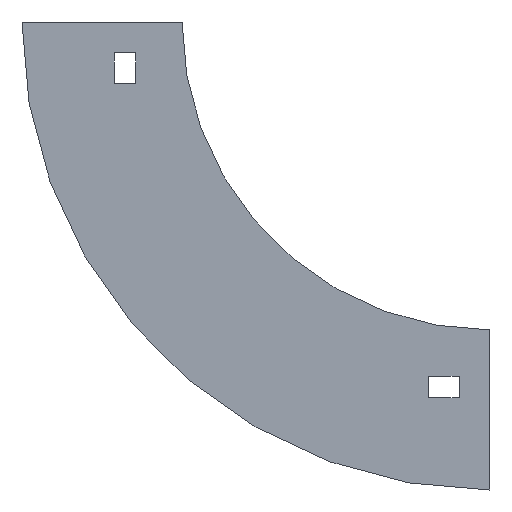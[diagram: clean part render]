
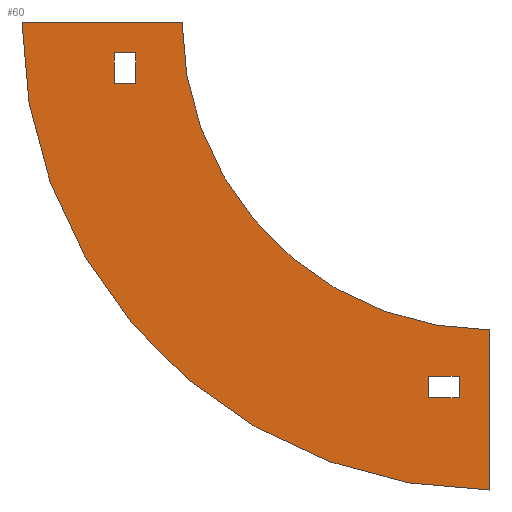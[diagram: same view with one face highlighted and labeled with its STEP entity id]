
A CAD part, left-side view. The second image highlights one B-rep face of the part: STEP entity #60.
In plain terms, the highlighted planar face has unit normal (-1, 0, 0).
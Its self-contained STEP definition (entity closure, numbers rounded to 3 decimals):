
#4 = EDGE_CURVE ( 'NONE', #400, #749, #743, .T. ) ;
#19 = ORIENTED_EDGE ( 'NONE', *, *, #146, .T. ) ;
#20 = FACE_BOUND ( 'NONE', #981, .T. ) ;
#36 = CARTESIAN_POINT ( 'NONE',  ( -302., 0., 0. ) ) ;
#41 = CARTESIAN_POINT ( 'NONE',  ( -302., -80., -122. ) ) ;
#60 = ADVANCED_FACE ( 'NONE', ( #297, #568, #20 ), #984, .T. ) ;
#97 = LINE ( 'NONE', #723, #781 ) ;
#118 = VERTEX_POINT ( 'NONE', #1015 ) ;
#122 = VECTOR ( 'NONE', #904, 1000. ) ;
#136 = LINE ( 'NONE', #492, #219 ) ;
#140 = CARTESIAN_POINT ( 'NONE',  ( -302., -90., -122. ) ) ;
#146 = EDGE_CURVE ( 'NONE', #118, #276, #136, .T. ) ;
#151 = VECTOR ( 'NONE', #449, 1000. ) ;
#152 = CARTESIAN_POINT ( 'NONE',  ( -302., -80., -115. ) ) ;
#172 = VECTOR ( 'NONE', #601, 1000. ) ;
#181 = VERTEX_POINT ( 'NONE', #1009 ) ;
#185 = DIRECTION ( 'NONE',  ( 0., 0., -1. ) ) ;
#198 = ORIENTED_EDGE ( 'NONE', *, *, #1113, .F. ) ;
#209 = CARTESIAN_POINT ( 'NONE',  ( -302., 22., -10. ) ) ;
#219 = VECTOR ( 'NONE', #851, 1000. ) ;
#228 = DIRECTION ( 'NONE',  ( 0., 1., 0. ) ) ;
#230 = CARTESIAN_POINT ( 'NONE',  ( -302., -100., 0. ) ) ;
#232 = EDGE_CURVE ( 'NONE', #748, #400, #406, .T. ) ;
#257 = EDGE_CURVE ( 'NONE', #1023, #890, #274, .T. ) ;
#260 = DIRECTION ( 'NONE',  ( 1., 0., 0. ) ) ;
#274 = CIRCLE ( 'NONE', #490, 100. ) ;
#276 = VERTEX_POINT ( 'NONE', #866 ) ;
#282 = ORIENTED_EDGE ( 'NONE', *, *, #300, .F. ) ;
#297 = FACE_BOUND ( 'NONE', #690, .T. ) ;
#300 = EDGE_CURVE ( 'NONE', #749, #1014, #97, .T. ) ;
#305 = AXIS2_PLACEMENT_3D ( 'NONE', #918, #811, #839 ) ;
#315 = DIRECTION ( 'NONE',  ( 0., 0., -1. ) ) ;
#328 = CARTESIAN_POINT ( 'NONE',  ( -302., -90., -115. ) ) ;
#329 = LINE ( 'NONE', #590, #1134 ) ;
#344 = VERTEX_POINT ( 'NONE', #598 ) ;
#381 = CARTESIAN_POINT ( 'NONE',  ( -302., 52., 0. ) ) ;
#400 = VERTEX_POINT ( 'NONE', #328 ) ;
#406 = LINE ( 'NONE', #761, #982 ) ;
#416 = CARTESIAN_POINT ( 'NONE',  ( -302., -90., -122. ) ) ;
#420 = EDGE_CURVE ( 'NONE', #181, #344, #439, .T. ) ;
#423 = VECTOR ( 'NONE', #315, 1000. ) ;
#427 = DIRECTION ( 'NONE',  ( 0., 0., 1. ) ) ;
#439 = CIRCLE ( 'NONE', #990, 152. ) ;
#445 = CARTESIAN_POINT ( 'NONE',  ( -302., -100., -100. ) ) ;
#449 = DIRECTION ( 'NONE',  ( 0., 1., 0. ) ) ;
#478 = ORIENTED_EDGE ( 'NONE', *, *, #958, .F. ) ;
#479 = CARTESIAN_POINT ( 'NONE',  ( -302., -90., -115. ) ) ;
#490 = AXIS2_PLACEMENT_3D ( 'NONE', #230, #1126, #858 ) ;
#492 = CARTESIAN_POINT ( 'NONE',  ( -302., 22., -10. ) ) ;
#496 = VERTEX_POINT ( 'NONE', #884 ) ;
#527 = EDGE_CURVE ( 'NONE', #344, #1023, #550, .T. ) ;
#533 = ORIENTED_EDGE ( 'NONE', *, *, #636, .T. ) ;
#550 = LINE ( 'NONE', #381, #122 ) ;
#554 = ORIENTED_EDGE ( 'NONE', *, *, #527, .F. ) ;
#568 = FACE_OUTER_BOUND ( 'NONE', #724, .T. ) ;
#580 = ORIENTED_EDGE ( 'NONE', *, *, #420, .F. ) ;
#583 = LINE ( 'NONE', #209, #1048 ) ;
#590 = CARTESIAN_POINT ( 'NONE',  ( -302., 22., -20. ) ) ;
#598 = CARTESIAN_POINT ( 'NONE',  ( -302., 52., 0. ) ) ;
#601 = DIRECTION ( 'NONE',  ( 0., -1., 0. ) ) ;
#614 = LINE ( 'NONE', #445, #1109 ) ;
#636 = EDGE_CURVE ( 'NONE', #496, #118, #583, .T. ) ;
#690 = EDGE_LOOP ( 'NONE', ( #19, #1093, #1106, #533 ) ) ;
#704 = ORIENTED_EDGE ( 'NONE', *, *, #257, .F. ) ;
#723 = CARTESIAN_POINT ( 'NONE',  ( -302., -80., -122. ) ) ;
#724 = EDGE_LOOP ( 'NONE', ( #704, #554, #580, #478 ) ) ;
#743 = LINE ( 'NONE', #479, #151 ) ;
#748 = VERTEX_POINT ( 'NONE', #416 ) ;
#749 = VERTEX_POINT ( 'NONE', #152 ) ;
#761 = CARTESIAN_POINT ( 'NONE',  ( -302., -90., -122. ) ) ;
#781 = VECTOR ( 'NONE', #185, 1000. ) ;
#802 = ORIENTED_EDGE ( 'NONE', *, *, #232, .F. ) ;
#811 = DIRECTION ( 'NONE',  ( -1., 0., 0. ) ) ;
#839 = DIRECTION ( 'NONE',  ( 0., 0., 1. ) ) ;
#846 = DIRECTION ( 'NONE',  ( 0., 0., 1. ) ) ;
#851 = DIRECTION ( 'NONE',  ( 0., -1., 0. ) ) ;
#858 = DIRECTION ( 'NONE',  ( 0., 0., 1. ) ) ;
#866 = CARTESIAN_POINT ( 'NONE',  ( -302., 15., -10. ) ) ;
#872 = CARTESIAN_POINT ( 'NONE',  ( -302., 15., -20. ) ) ;
#884 = CARTESIAN_POINT ( 'NONE',  ( -302., 22., -20. ) ) ;
#890 = VERTEX_POINT ( 'NONE', #1059 ) ;
#904 = DIRECTION ( 'NONE',  ( 0., -1., 0. ) ) ;
#905 = ORIENTED_EDGE ( 'NONE', *, *, #4, .F. ) ;
#918 = CARTESIAN_POINT ( 'NONE',  ( -302., -100., 0. ) ) ;
#937 = LINE ( 'NONE', #140, #172 ) ;
#944 = LINE ( 'NONE', #1108, #423 ) ;
#949 = DIRECTION ( 'NONE',  ( 0., 0., -1. ) ) ;
#958 = EDGE_CURVE ( 'NONE', #890, #181, #614, .T. ) ;
#981 = EDGE_LOOP ( 'NONE', ( #905, #802, #198, #282 ) ) ;
#982 = VECTOR ( 'NONE', #1112, 1000. ) ;
#984 = PLANE ( 'NONE',  #305 ) ;
#990 = AXIS2_PLACEMENT_3D ( 'NONE', #1122, #260, #427 ) ;
#1009 = CARTESIAN_POINT ( 'NONE',  ( -302., -100., -152. ) ) ;
#1014 = VERTEX_POINT ( 'NONE', #41 ) ;
#1015 = CARTESIAN_POINT ( 'NONE',  ( -302., 22., -10. ) ) ;
#1023 = VERTEX_POINT ( 'NONE', #36 ) ;
#1048 = VECTOR ( 'NONE', #846, 1000. ) ;
#1059 = CARTESIAN_POINT ( 'NONE',  ( -302., -100., -100. ) ) ;
#1076 = EDGE_CURVE ( 'NONE', #1146, #496, #329, .T. ) ;
#1093 = ORIENTED_EDGE ( 'NONE', *, *, #1095, .T. ) ;
#1095 = EDGE_CURVE ( 'NONE', #276, #1146, #944, .T. ) ;
#1106 = ORIENTED_EDGE ( 'NONE', *, *, #1076, .T. ) ;
#1108 = CARTESIAN_POINT ( 'NONE',  ( -302., 15., -10. ) ) ;
#1109 = VECTOR ( 'NONE', #949, 1000. ) ;
#1112 = DIRECTION ( 'NONE',  ( 0., 0., 1. ) ) ;
#1113 = EDGE_CURVE ( 'NONE', #1014, #748, #937, .T. ) ;
#1122 = CARTESIAN_POINT ( 'NONE',  ( -302., -100., 0. ) ) ;
#1126 = DIRECTION ( 'NONE',  ( -1., 0., 0. ) ) ;
#1134 = VECTOR ( 'NONE', #228, 1000. ) ;
#1146 = VERTEX_POINT ( 'NONE', #872 ) ;
